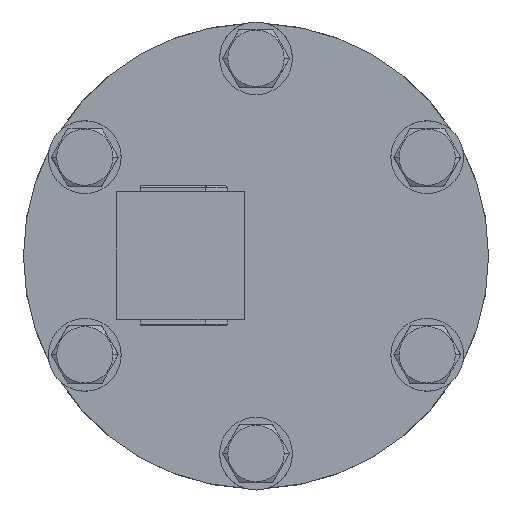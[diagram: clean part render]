
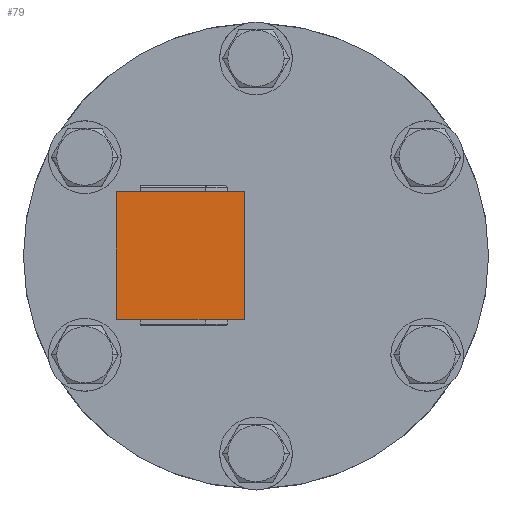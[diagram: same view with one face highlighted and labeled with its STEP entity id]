
A CAD part, top view. The second image highlights one B-rep face of the part: STEP entity #79.
In plain terms, the highlighted planar face has unit normal (0, 0, 1).
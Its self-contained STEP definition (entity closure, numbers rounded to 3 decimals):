
#79=ADVANCED_FACE('',(#769),#768,.T.);
#768=PLANE('',#4190);
#769=FACE_OUTER_BOUND('',#4191,.T.);
#4187=CARTESIAN_POINT('',(-26.209,-13.2,148.));
#4188=DIRECTION('',(0.,0.,1.));
#4189=DIRECTION('',(1.,0.,0.));
#4190=AXIS2_PLACEMENT_3D('',#4187,#4188,#4189);
#4191=EDGE_LOOP('',(#6821,#6822,#6823,#6824));
#6821=ORIENTED_EDGE('',*,*,#8452,.T.);
#6822=ORIENTED_EDGE('',*,*,#8430,.T.);
#6823=ORIENTED_EDGE('',*,*,#8456,.T.);
#6824=ORIENTED_EDGE('',*,*,#8441,.T.);
#8430=EDGE_CURVE('',#9898,#9899,#9900,.T.);
#8441=EDGE_CURVE('',#9975,#9976,#9977,.T.);
#8452=EDGE_CURVE('',#9976,#9898,#10052,.T.);
#8456=EDGE_CURVE('',#9899,#9975,#10078,.T.);
#9898=VERTEX_POINT('',#15261);
#9899=VERTEX_POINT('',#15262);
#9900=LINE('',#15263,#15264);
#9975=VERTEX_POINT('',#15305);
#9976=VERTEX_POINT('',#15306);
#9977=LINE('',#15307,#15308);
#10052=LINE('',#15349,#15350);
#10078=LINE('',#15365,#15366);
#15261=CARTESIAN_POINT('',(-2.009,11.,148.));
#15262=CARTESIAN_POINT('',(-24.009,11.,148.));
#15263=CARTESIAN_POINT('',(-2.009,11.,148.));
#15264=VECTOR('',#15265,22.);
#15265=DIRECTION('',(-1.,0.,0.));
#15305=CARTESIAN_POINT('',(-24.009,-11.,148.));
#15306=CARTESIAN_POINT('',(-2.009,-11.,148.));
#15307=CARTESIAN_POINT('',(-24.009,-11.,148.));
#15308=VECTOR('',#15309,22.);
#15309=DIRECTION('',(1.,0.,0.));
#15349=CARTESIAN_POINT('',(-2.009,-11.,148.));
#15350=VECTOR('',#15351,22.);
#15351=DIRECTION('',(0.,1.,0.));
#15365=CARTESIAN_POINT('',(-24.009,11.,148.));
#15366=VECTOR('',#15367,22.);
#15367=DIRECTION('',(0.,-1.,0.));
